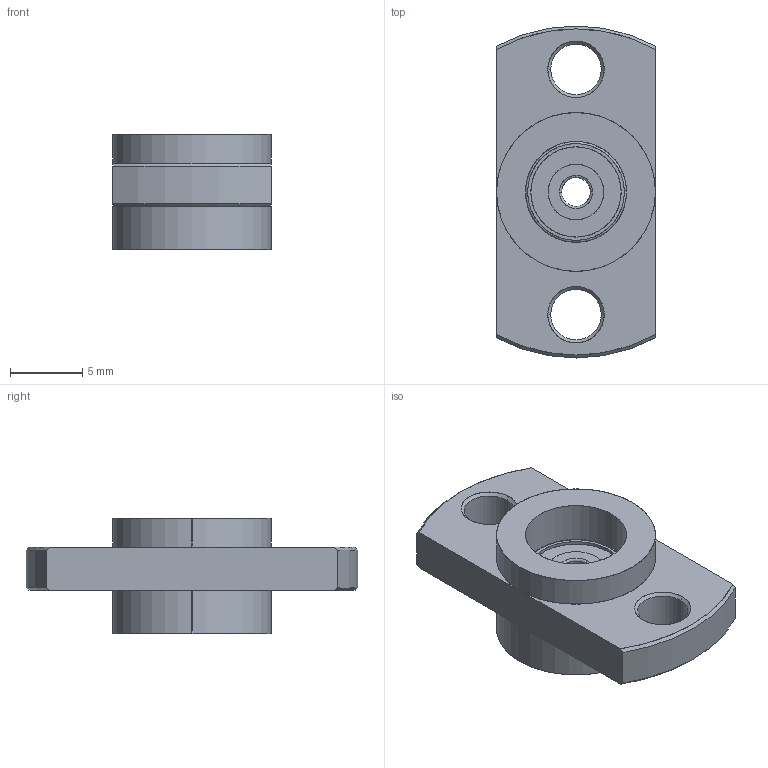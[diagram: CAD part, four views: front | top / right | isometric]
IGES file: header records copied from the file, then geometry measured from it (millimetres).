
Start section: SolidWorks IGES file using analytic representation for surfaces
Global section: file name: C:\Users\watanabe\Desktop\MSU-3\MSU3GS.IGS; native system: SolidWorks 2010; preprocessor: SolidWorks 2010; author: watanabe; date: 120613.094430; units: millimetre
Bounding box: 11 x 23 x 8 mm (x, y, z)
Surface area: 1143.4 mm2 (no closed solid volume)
Topology: 0 solids, 0 shells, 58 faces, 940 edges, 940 vertices
Faces by surface type: revolution 36, bspline 22
